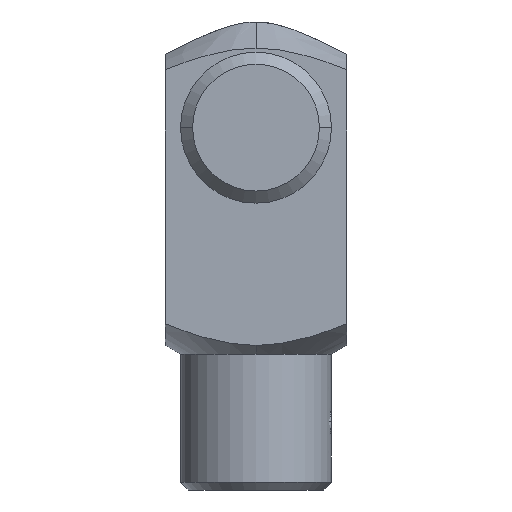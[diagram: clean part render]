
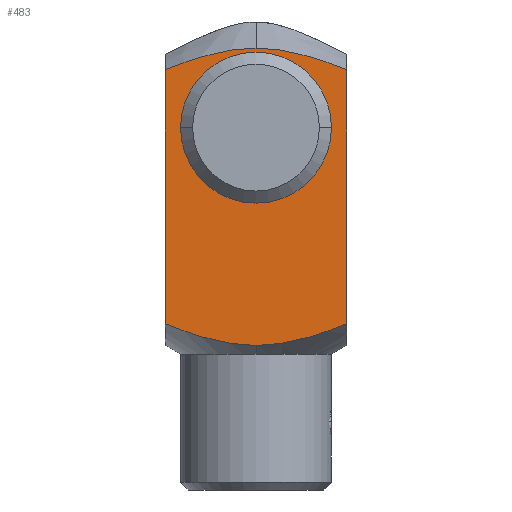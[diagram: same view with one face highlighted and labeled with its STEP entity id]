
A CAD part, left-side view. The second image highlights one B-rep face of the part: STEP entity #483.
In plain terms, the highlighted planar face has unit normal (-1, 0, 0).
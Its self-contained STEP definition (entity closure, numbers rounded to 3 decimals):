
#22 = CARTESIAN_POINT ( 'NONE',  ( -12., 0., 165.155 ) ) ;
#32 = CIRCLE ( 'NONE', #156, 6. ) ;
#141 = DIRECTION ( 'NONE',  ( 0., 0., 1. ) ) ;
#156 = AXIS2_PLACEMENT_3D ( 'NONE', #880, #389, #580 ) ;
#161 = CARTESIAN_POINT ( 'NONE',  ( -12., 12., 168.024 ) ) ;
#199 = EDGE_CURVE ( 'NONE', #3577, #658, #32, .T. ) ;
#206 = ORIENTED_EDGE ( 'NONE', *, *, #1994, .T. ) ;
#250 = CARTESIAN_POINT ( 'NONE',  ( -12., 12., 201.672 ) ) ;
#326 = CARTESIAN_POINT ( 'NONE',  ( -12., 0., 165.155 ) ) ;
#343 = VECTOR ( 'NONE', #141, 1000. ) ;
#348 = EDGE_LOOP ( 'NONE', ( #206, #2385 ) ) ;
#368 = CARTESIAN_POINT ( 'NONE',  ( -12., 0., 194. ) ) ;
#389 = DIRECTION ( 'NONE',  ( 1., 0., 0. ) ) ;
#409 = CARTESIAN_POINT ( 'NONE',  ( -12., -12., 168.024 ) ) ;
#462 = ORIENTED_EDGE ( 'NONE', *, *, #1574, .T. ) ;
#469 = VERTEX_POINT ( 'NONE', #250 ) ;
#483 = ADVANCED_FACE ( 'NONE', ( #1065, #1910 ), #3375, .T. ) ;
#542 = EDGE_CURVE ( 'NONE', #1989, #618, #1319, .T. ) ;
#580 = DIRECTION ( 'NONE',  ( 0., 1., 0. ) ) ;
#618 = VERTEX_POINT ( 'NONE', #326 ) ;
#648 = CARTESIAN_POINT ( 'NONE',  ( -12., 0., 165.155 ) ) ;
#658 = VERTEX_POINT ( 'NONE', #3152 ) ;
#819 = DIRECTION ( 'NONE',  ( -1., 0., 0. ) ) ;
#880 = CARTESIAN_POINT ( 'NONE',  ( -12., 0., 194. ) ) ;
#1020 = CIRCLE ( 'NONE', #2842, 6. ) ;
#1065 = FACE_BOUND ( 'NONE', #348, .T. ) ;
#1188 = EDGE_CURVE ( 'NONE', #1614, #3181, #3437, .T. ) ;
#1294 = CARTESIAN_POINT ( 'NONE',  ( -12., -4.971, 165.155 ) ) ;
#1319 =( BOUNDED_CURVE ( )  B_SPLINE_CURVE ( 2, ( #2460, #3603, #22 ),
 .UNSPECIFIED., .F., .T. ) 
 B_SPLINE_CURVE_WITH_KNOTS ( ( 3, 3 ),
 ( 0.928, 2.69 ),
 .UNSPECIFIED. ) 
 CURVE ( )  GEOMETRIC_REPRESENTATION_ITEM ( )  RATIONAL_B_SPLINE_CURVE ( ( 1.38, 1.666, 1.666 ) ) 
 REPRESENTATION_ITEM ( '' )  );
#1432 = DIRECTION ( 'NONE',  ( 0., 0., 1. ) ) ;
#1574 = EDGE_CURVE ( 'NONE', #2040, #469, #2696, .T. ) ;
#1606 = CARTESIAN_POINT ( 'NONE',  ( -12., -12., 201.672 ) ) ;
#1614 = VERTEX_POINT ( 'NONE', #2510 ) ;
#1730 = EDGE_CURVE ( 'NONE', #1989, #469, #2939, .T. ) ;
#1824 =( BOUNDED_CURVE ( )  B_SPLINE_CURVE ( 2, ( #2266, #2598, #3393 ),
 .UNSPECIFIED., .F., .T. ) 
 B_SPLINE_CURVE_WITH_KNOTS ( ( 3, 3 ),
 ( 1.228, 3.183 ),
 .UNSPECIFIED. ) 
 CURVE ( )  GEOMETRIC_REPRESENTATION_ITEM ( )  RATIONAL_B_SPLINE_CURVE ( ( 1.519, 1.833, 1.833 ) ) 
 REPRESENTATION_ITEM ( '' )  );
#1842 =( BOUNDED_CURVE ( )  B_SPLINE_CURVE ( 2, ( #648, #1294, #409 ),
 .UNSPECIFIED., .F., .T. ) 
 B_SPLINE_CURVE_WITH_KNOTS ( ( 3, 3 ),
 ( 2.69, 4.453 ),
 .UNSPECIFIED. ) 
 CURVE ( )  GEOMETRIC_REPRESENTATION_ITEM ( )  RATIONAL_B_SPLINE_CURVE ( ( 1.666, 1.666, 1.38 ) ) 
 REPRESENTATION_ITEM ( '' )  );
#1847 = CARTESIAN_POINT ( 'NONE',  ( -12., 12., 164. ) ) ;
#1910 = FACE_OUTER_BOUND ( 'NONE', #3119, .T. ) ;
#1915 = VECTOR ( 'NONE', #1432, 1000. ) ;
#1930 = DIRECTION ( 'NONE',  ( 0., 1., 0. ) ) ;
#1979 = CARTESIAN_POINT ( 'NONE',  ( -12., 4.971, 204.542 ) ) ;
#1989 = VERTEX_POINT ( 'NONE', #161 ) ;
#1994 = EDGE_CURVE ( 'NONE', #658, #3577, #1020, .T. ) ;
#2040 = VERTEX_POINT ( 'NONE', #2373 ) ;
#2044 = CARTESIAN_POINT ( 'NONE',  ( -12., -12., 164. ) ) ;
#2261 = CARTESIAN_POINT ( 'NONE',  ( -12., 0., 204.542 ) ) ;
#2266 = CARTESIAN_POINT ( 'NONE',  ( -12., -12., 201.672 ) ) ;
#2373 = CARTESIAN_POINT ( 'NONE',  ( -12., 0., 204.542 ) ) ;
#2385 = ORIENTED_EDGE ( 'NONE', *, *, #199, .T. ) ;
#2409 = DIRECTION ( 'NONE',  ( 0., 1., 0. ) ) ;
#2460 = CARTESIAN_POINT ( 'NONE',  ( -12., 12., 168.024 ) ) ;
#2510 = CARTESIAN_POINT ( 'NONE',  ( -12., -12., 168.024 ) ) ;
#2598 = CARTESIAN_POINT ( 'NONE',  ( -12., -4.971, 204.542 ) ) ;
#2634 = EDGE_CURVE ( 'NONE', #3181, #2040, #1824, .T. ) ;
#2696 =( BOUNDED_CURVE ( )  B_SPLINE_CURVE ( 2, ( #2261, #1979, #2833 ),
 .UNSPECIFIED., .F., .T. ) 
 B_SPLINE_CURVE_WITH_KNOTS ( ( 3, 3 ),
 ( 3.183, 5.139 ),
 .UNSPECIFIED. ) 
 CURVE ( )  GEOMETRIC_REPRESENTATION_ITEM ( )  RATIONAL_B_SPLINE_CURVE ( ( 1.833, 1.833, 1.519 ) ) 
 REPRESENTATION_ITEM ( '' )  );
#2793 = CARTESIAN_POINT ( 'NONE',  ( -12., -12., 164. ) ) ;
#2833 = CARTESIAN_POINT ( 'NONE',  ( -12., 12., 201.672 ) ) ;
#2842 = AXIS2_PLACEMENT_3D ( 'NONE', #368, #2974, #2409 ) ;
#2908 = CARTESIAN_POINT ( 'NONE',  ( -12., -6., 194. ) ) ;
#2939 = LINE ( 'NONE', #1847, #343 ) ;
#2974 = DIRECTION ( 'NONE',  ( 1., 0., 0. ) ) ;
#3043 = AXIS2_PLACEMENT_3D ( 'NONE', #2793, #819, #1930 ) ;
#3077 = ORIENTED_EDGE ( 'NONE', *, *, #3498, .T. ) ;
#3119 = EDGE_LOOP ( 'NONE', ( #3172, #3077, #3185, #3122, #462, #3435 ) ) ;
#3122 = ORIENTED_EDGE ( 'NONE', *, *, #2634, .T. ) ;
#3152 = CARTESIAN_POINT ( 'NONE',  ( -12., 6., 194. ) ) ;
#3172 = ORIENTED_EDGE ( 'NONE', *, *, #542, .T. ) ;
#3181 = VERTEX_POINT ( 'NONE', #1606 ) ;
#3185 = ORIENTED_EDGE ( 'NONE', *, *, #1188, .T. ) ;
#3375 = PLANE ( 'NONE',  #3043 ) ;
#3393 = CARTESIAN_POINT ( 'NONE',  ( -12., 0., 204.542 ) ) ;
#3435 = ORIENTED_EDGE ( 'NONE', *, *, #1730, .F. ) ;
#3437 = LINE ( 'NONE', #2044, #1915 ) ;
#3498 = EDGE_CURVE ( 'NONE', #618, #1614, #1842, .T. ) ;
#3577 = VERTEX_POINT ( 'NONE', #2908 ) ;
#3603 = CARTESIAN_POINT ( 'NONE',  ( -12., 4.971, 165.155 ) ) ;
